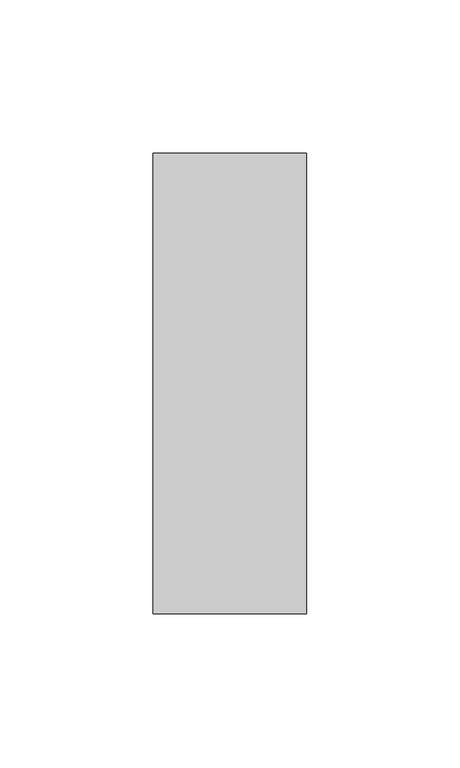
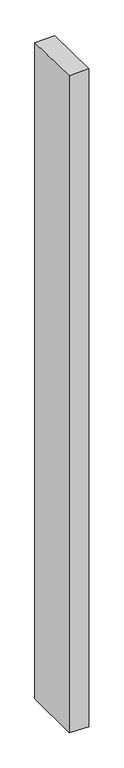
"""IFC4 building model written with IfcOpenShell, lengths in millimetres: member geometry, Прямоугольный импост : 50 x 150 мм."""

from ifc_helpers import new_model, si_unit, origin, place, context, project, spatial, faceted_brep, source, transform, mapped, element, save


def member_7d8f868d(model_context):
    return source(origin(), model_context, "Body", "Brep", [
        faceted_brep([(-25.0, 75.0, -1.701759), (25.0, 75.0, -0.5130196), (25.0, 75.0, -1764.1535482), (-25.0, 75.0, -1763.0327489), (-25.0, -75.0, 0.5130196), (-25.0, -75.0, -1763.4264641), (25.0, -75.0, 1.701759), (25.0, -75.0, -1764.5472634)], [[[0, 1, 2, 3]], [[4, 0, 3, 5]], [[6, 4, 5, 7]], [[1, 6, 7, 2]], [[1, 0, 4, 6]], [[2, 7, 5, 3]]]),
    ])


if __name__ == "__main__":
    model = new_model("IFC4")
    model_context = context("Model", 3, world=origin())
    ifc_project = project(units=[si_unit("LENGTHUNIT", "METRE", prefix="MILLI")], contexts=[model_context])
    site = spatial("IfcSite", under=ifc_project)
    building = spatial("IfcBuilding", under=site)
    placement = place(None, origin())
    member_shape = member_7d8f868d(model_context)
    element("IfcMember", 1, ObjectType="Прямоугольный импост : 50 x 150 мм", at=placement, inside=building, context=model_context, shape_type="MappedRepresentation", body=[
        mapped(member_shape, transform((0.0, 0.0, 0.0), x_axis=(1.0, 0.0, 0.0), y_axis=(0.0, 1.0, 0.0), z_axis=(0.0, 0.0, 1.0))),
    ])
    save(model, "model.ifc")
